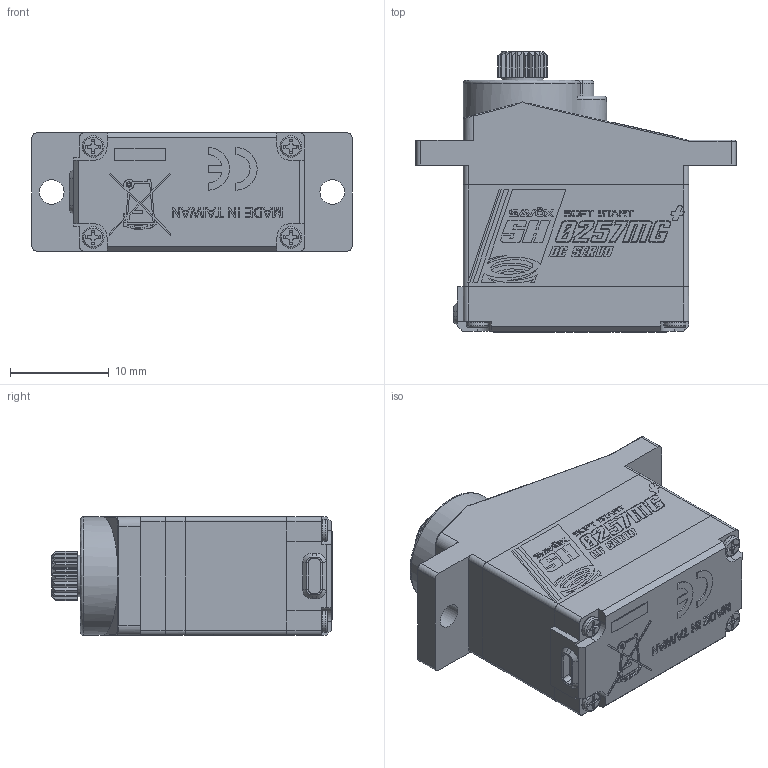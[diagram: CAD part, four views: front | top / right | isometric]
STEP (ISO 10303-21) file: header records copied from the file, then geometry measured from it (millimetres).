
FILE_DESCRIPTION (( 'STEP AP214' ), '1' );
FILE_NAME ('SH-0257MG+_3D??+??.STEP', '2025-05-07T11:41:43', ( '' ), ( '' ), 'SwSTEP 2.0', 'SolidWorks 2024', '' );
FILE_SCHEMA (( 'AUTOMOTIVE_DESIGN' ));
Length unit declared in the file: millimetre
Products named in the file (1): SH-0257MG+_3D零件+齒輪
Bounding box: 32.4 x 28.4 x 12 mm (x, y, z)
Volume: 6539 mm3; surface area: 2567.4 mm2
Topology: 1 solids, 1 shells, 742 faces, 4063 edges, 3477 vertices
Faces by surface type: plane 501, cylinder 168, bspline 67, cone 6
Full cylindrical faces by diameter (mm): 0.287 x1, 0.547 x1, 1.6 x1, 2.2 x4, 2.5 x2, 4.2 x1, 7.2 x1
Entity records: 49359 total; most frequent: CARTESIAN_POINT 14871, ORIENTED_EDGE 8068, DIRECTION 4377, EDGE_CURVE 4034, VERTEX_POINT 3475, VECTOR 2399, LINE 2399, B_SPLINE_CURVE_WITH_KNOTS 1275
